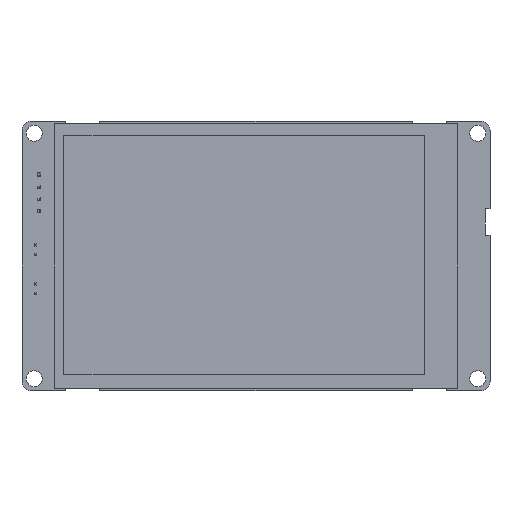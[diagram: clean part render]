
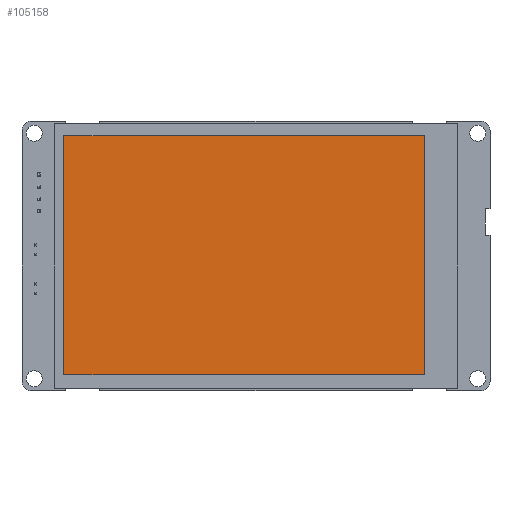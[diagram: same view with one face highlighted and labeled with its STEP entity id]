
A CAD part, top view. The second image highlights one B-rep face of the part: STEP entity #105158.
In plain terms, the highlighted planar face has unit normal (0, 0, 1) as drawn and (0, 1, 0) by its records, which use the part's own axes.
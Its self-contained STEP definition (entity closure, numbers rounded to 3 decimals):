
#6842=PLANE('',#112357);
#12065=FACE_OUTER_BOUND('',#17627,.T.);
#17627=EDGE_LOOP('',(#92612,#92613,#92614,#92615));
#29852=LINE('',#180224,#41005);
#29855=LINE('',#180230,#41008);
#29858=LINE('',#180236,#41011);
#29861=LINE('',#180240,#41014);
#41005=VECTOR('',#135636,10.);
#41008=VECTOR('',#135641,10.);
#41011=VECTOR('',#135646,10.);
#41014=VECTOR('',#135651,10.);
#50471=VERTEX_POINT('',#180221);
#50472=VERTEX_POINT('',#180223);
#50474=VERTEX_POINT('',#180229);
#50476=VERTEX_POINT('',#180235);
#64614=EDGE_CURVE('',#50472,#50471,#29852,.T.);
#64617=EDGE_CURVE('',#50474,#50472,#29855,.T.);
#64620=EDGE_CURVE('',#50476,#50474,#29858,.T.);
#64623=EDGE_CURVE('',#50471,#50476,#29861,.T.);
#92612=ORIENTED_EDGE('',*,*,#64623,.T.);
#92613=ORIENTED_EDGE('',*,*,#64620,.T.);
#92614=ORIENTED_EDGE('',*,*,#64617,.T.);
#92615=ORIENTED_EDGE('',*,*,#64614,.T.);
#105158=ADVANCED_FACE('',(#12065),#6842,.T.);
#112357=AXIS2_PLACEMENT_3D('',#180241,#135652,#135653);
#135636=DIRECTION('',(0.,0.,-1.));
#135641=DIRECTION('',(1.,0.,0.));
#135646=DIRECTION('',(0.,0.,1.));
#135651=DIRECTION('',(-1.,0.,0.));
#135652=DIRECTION('center_axis',(0.,1.,0.));
#135653=DIRECTION('ref_axis',(0.,0.,1.));
#180221=CARTESIAN_POINT('',(39.5,4.1,-24.45));
#180223=CARTESIAN_POINT('',(39.5,4.1,24.75));
#180224=CARTESIAN_POINT('',(39.5,4.1,24.75));
#180229=CARTESIAN_POINT('',(-34.7,4.1,24.75));
#180230=CARTESIAN_POINT('',(-34.7,4.1,24.75));
#180235=CARTESIAN_POINT('',(-34.7,4.1,-24.45));
#180236=CARTESIAN_POINT('',(-34.7,4.1,-24.45));
#180240=CARTESIAN_POINT('',(39.5,4.1,-24.45));
#180241=CARTESIAN_POINT('Origin',(2.4,4.1,0.15));
